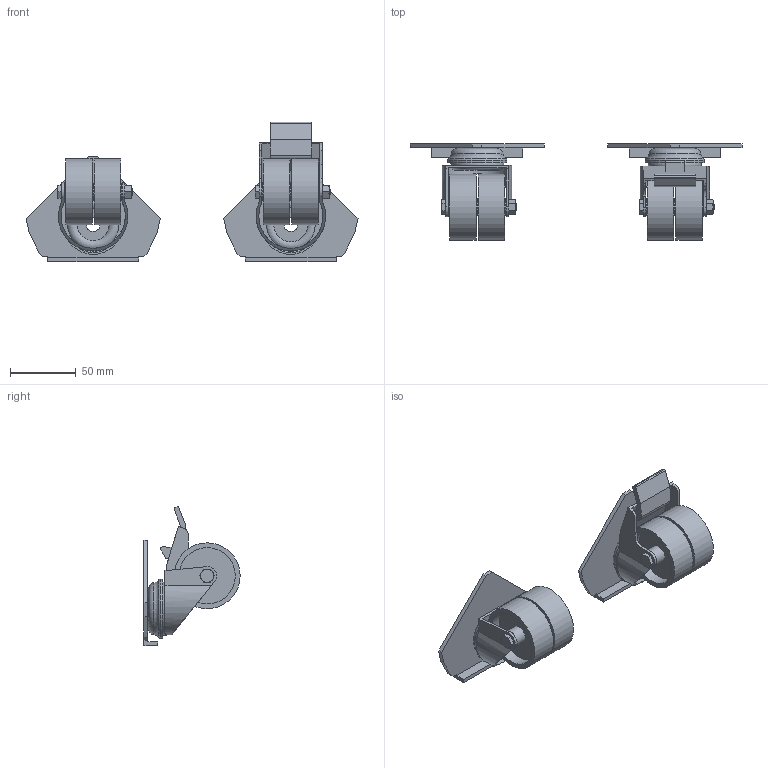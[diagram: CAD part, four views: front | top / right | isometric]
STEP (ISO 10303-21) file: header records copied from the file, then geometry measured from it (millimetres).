
FILE_DESCRIPTION( ( 'STEP AP214' ), '1' );
FILE_NAME( 'p:/temp/worker_400/temp/exporttempdir_2972_264_rwjPn/format_0/LCR471(0).stp', '2020-09-17T17:50:50', ( 'License CC BY-ND 4.0' ), ( 'CADENAS' ), ' ', 'PARTsolutions', ' ' );
FILE_SCHEMA( ( 'AUTOMOTIVE_DESIGN { 1 0 10303 214 1 1 1 1 }' ) );
Length unit declared in the file: millimetre
Products named in the file (4): LCR471(0); _LCR471(0)_p1; _LCR471(0)_p3; _LCR471(0)_p2
Assembly tree (6 placements, depth 2):
  LCR471(0)
    _LCR471(0)_p1
    _LCR471(0)_p3  x4
    _LCR471(0)_p2
Bounding box: 251.91 x 73 x 105.75 mm (x, y, z)
Volume: 163283.3 mm3; surface area: 105546.8 mm2
Topology: 6 solids, 6 shells, 237 faces, 551 edges, 361 vertices
Faces by surface type: plane 144, cylinder 60, torus 21, cone 12
Full cylindrical faces by diameter (mm): 6 x2, 9.2 x4, 10.3 x4, 13 x2, 13.2 x8, 15.25 x2, 18 x2, 42 x2, 42.7 x8, 45 x2, 50 x4
Entity records: 7435 total; most frequent: CARTESIAN_POINT 1259, DIRECTION 913, ORIENTED_EDGE 850, EDGE_CURVE 425, AXIS2_PLACEMENT_3D 334, VERTEX_POINT 310, EDGE_LOOP 289, LINE 245
